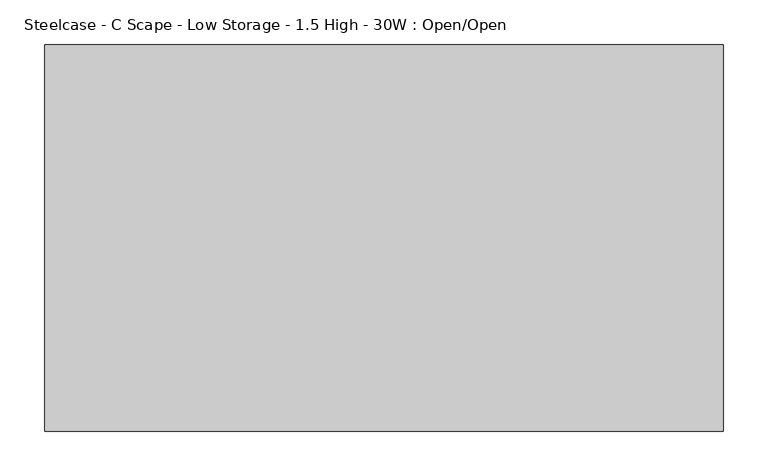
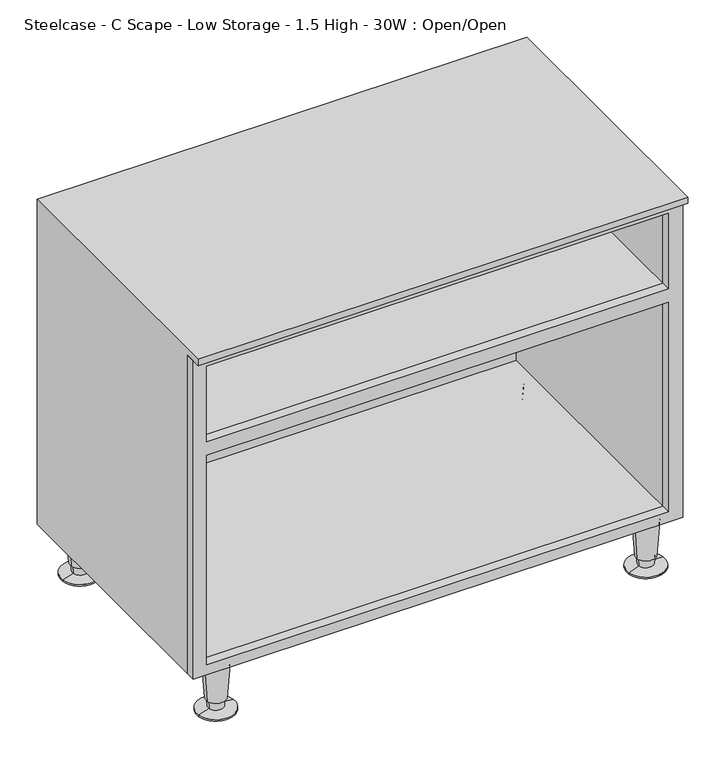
"""IFC4 building model written with IfcOpenShell, lengths in millimetres: furniture geometry, Steelcase - C Scape - Low Storage - 1.5 High - 30W : Open/Open."""

from ifc_helpers import new_model, si_unit, frame, origin, place, context, project, spatial, polyline, circle_curve, outline, extrude, faceted_brep, source, transform, mapped, element, save
from ifc_brep_helpers import plane_surface, cylinder_surface, revolved_surface, advanced_brep


def steelcase_c_scape_low_storage_1_5_high_30w_open_open_7402bb62(model_context):
    return source(origin(), model_context, "Body", "SolidModel", [
        extrude(outline(polyline([(599.4499291, 0.0), (76.2, 0.0), (76.2, 760.73), (599.4499291, 760.73), (599.4499291, 320.0585382), (599.4499291, 0.0)]), holes=[polyline([(458.7875121, 21.3382324), (582.9399291, 21.3382324), (582.9399291, 738.7617285), (458.7875121, 738.7617285), (458.7875121, 21.3382324)]), polyline([(436.841904, 21.3256814), (436.841904, 738.7617285), (92.7100024, 738.7617285), (92.7100024, 21.3256814), (436.841904, 21.3256814)])]), frame((0.0, -419.3540543, 0.0), z_axis=(0.0, 1.0, 0.0), x_axis=(0.0, 0.0, 1.0)), (0.0, 0.0, 1.0), 14.9860039),
        advanced_brep(
        [(65.5422821, -397.1702762, 76.2), (27.8805432, -402.9325174, 76.2), (46.7114126, -400.0513968, 76.2), (61.5919341, -397.774679, 19.05), (31.8308912, -402.3281146, 19.05), (59.1623471, -398.1464055, 19.05), (34.2604781, -401.9563882, 19.05), (58.4735776, -398.2517871, 5.7545598), (34.9492476, -401.8510065, 5.7545598), (75.8224611, -395.5974102, 2.5119506), (17.6003641, -404.5053834, 2.5119506), (75.8224611, -395.5974102, 0.0), (17.6003641, -404.5053834, 0.0), (46.7114126, -400.0513968, 0.0)],
        [
            (0, 1, circle_curve(frame((46.7114126, -400.0513968, 76.2), z_axis=(0.0, 0.0, 1.0), x_axis=(0.0, -1.0, 0.0)), 19.05)),
            (1, 2),
            (2, 0),
            (1, 0, circle_curve(frame((46.7114126, -400.0513968, 76.2), z_axis=(0.0, 0.0, 1.0), x_axis=(0.0, -1.0, 0.0)), 19.05)),
            (3, 4, circle_curve(frame((46.7114126, -400.0513968, 19.05), z_axis=(0.0, 0.0, 1.0), x_axis=(0.0, -1.0, 0.0)), 15.0536827)),
            (4, 1),
            (0, 3),
            (4, 3, circle_curve(frame((46.7114126, -400.0513968, 19.05), z_axis=(0.0, 0.0, 1.0), x_axis=(0.0, -1.0, 0.0)), 15.0536827)),
            (5, 6, circle_curve(frame((46.7114126, -400.0513968, 19.05), z_axis=(0.0, 0.0, 1.0), x_axis=(0.0, -1.0, 0.0)), 12.5958232)),
            (6, 4),
            (3, 5),
            (6, 5, circle_curve(frame((46.7114126, -400.0513968, 19.05), z_axis=(0.0, 0.0, 1.0), x_axis=(0.0, -1.0, 0.0)), 12.5958232)),
            (7, 8, circle_curve(frame((46.7114126, -400.0513968, 5.7545598), z_axis=(0.0, 0.0, 1.0), x_axis=(0.0, -1.0, 0.0)), 11.8990387)),
            (8, 6),
            (5, 7),
            (8, 7, circle_curve(frame((46.7114126, -400.0513968, 5.7545598), z_axis=(0.0, 0.0, 1.0), x_axis=(0.0, -1.0, 0.0)), 11.8990387)),
            (9, 10, circle_curve(frame((46.7114126, -400.0513968, 2.5119506), z_axis=(0.0, 0.0, 1.0), x_axis=(0.0, -1.0, 0.0)), 29.4498071)),
            (10, 8),
            (7, 9),
            (10, 9, circle_curve(frame((46.7114126, -400.0513968, 2.5119506), z_axis=(0.0, 0.0, 1.0), x_axis=(0.0, -1.0, 0.0)), 29.4498071)),
            (11, 12, circle_curve(frame((46.7114126, -400.0513968, 0.0), z_axis=(0.0, 0.0, 1.0), x_axis=(0.0, -1.0, 0.0)), 29.4498071)),
            (12, 10),
            (9, 11),
            (12, 11, circle_curve(frame((46.7114126, -400.0513968, 0.0), z_axis=(0.0, 0.0, 1.0), x_axis=(0.0, -1.0, 0.0)), 29.4498071)),
            (13, 12),
            (11, 13),
        ],
        [
            plane_surface(frame((46.7114126, -400.0513968, 76.2), z_axis=(0.0, 0.0, 1.0), x_axis=(0.0, -1.0, 0.0))),
            revolved_surface(polyline([(46.7114126, -419.1013968, 76.2), (46.7114126, -415.1050795, 19.05)]), (46.7114126, -400.0513968, 25.4), (0.0, 0.0, -1.0)),
            plane_surface(frame((46.7114126, -400.0513968, 19.05), z_axis=(0.0, 0.0, -1.0), x_axis=(0.0, -1.0, 0.0))),
            revolved_surface(polyline([(46.7114126, -412.64722, 19.05), (46.7114126, -411.9504355, 5.7545598)]), (46.7114126, -400.0513968, 25.4), (0.0, 0.0, -1.0)),
            revolved_surface(polyline([(46.7114126, -411.9504355, 5.7545598), (46.7114126, -429.5012039, 2.5119506)]), (46.7114126, -400.0513968, 25.4), (0.0, 0.0, -1.0)),
            cylinder_surface(frame((46.7114126, -400.0513968, 25.4), z_axis=(0.0, 0.0, -1.0), x_axis=(0.0, -1.0, 0.0)), 29.4498071),
            plane_surface(frame((46.7114126, -400.0513968, 0.0), z_axis=(0.0, 0.0, -1.0), x_axis=(0.0, -1.0, 0.0))),
        ],
        [
            (0, [[1, 2, 3]]),
            (0, [[4, -3, -2]]),
            (1, [[5, 6, -1, 7]]),
            (1, [[8, -7, -4, -6]]),
            (2, [[9, 10, -5, 11]]),
            (2, [[12, -11, -8, -10]]),
            (3, [[13, 14, -9, 15]]),
            (3, [[16, -15, -12, -14]]),
            (4, [[17, 18, -13, 19]]),
            (4, [[20, -19, -16, -18]]),
            (5, [[21, 22, -17, 23]]),
            (5, [[24, -23, -20, -22]]),
            (6, [[25, -21, 26]]),
            (6, [[-26, -24, -25]]),
        ],
    ),
        advanced_brep(
        [(733.4598695, -397.1702762, 76.2), (695.7981305, -402.9325174, 76.2), (714.629, -400.0513968, 76.2), (729.5095214, -397.774679, 19.05), (699.7484786, -402.3281146, 19.05), (727.0799345, -398.1464055, 19.05), (702.1780655, -401.9563882, 19.05), (726.391165, -398.2517871, 5.7545598), (702.866835, -401.8510065, 5.7545598), (743.7400485, -395.5974102, 2.5119506), (685.5179515, -404.5053834, 2.5119506), (743.7400485, -395.5974102, 0.0), (685.5179515, -404.5053834, 0.0), (714.629, -400.0513968, 0.0)],
        [
            (0, 1, circle_curve(frame((714.629, -400.0513968, 76.2), z_axis=(0.0, 0.0, 1.0), x_axis=(0.0, -1.0, 0.0)), 19.05)),
            (1, 2),
            (2, 0),
            (1, 0, circle_curve(frame((714.629, -400.0513968, 76.2), z_axis=(0.0, 0.0, 1.0), x_axis=(0.0, -1.0, 0.0)), 19.05)),
            (3, 4, circle_curve(frame((714.629, -400.0513968, 19.05), z_axis=(0.0, 0.0, 1.0), x_axis=(0.0, -1.0, 0.0)), 15.0536827)),
            (4, 1),
            (0, 3),
            (4, 3, circle_curve(frame((714.629, -400.0513968, 19.05), z_axis=(0.0, 0.0, 1.0), x_axis=(0.0, -1.0, 0.0)), 15.0536827)),
            (5, 6, circle_curve(frame((714.629, -400.0513968, 19.05), z_axis=(0.0, 0.0, 1.0), x_axis=(0.0, -1.0, 0.0)), 12.5958232)),
            (6, 4),
            (3, 5),
            (6, 5, circle_curve(frame((714.629, -400.0513968, 19.05), z_axis=(0.0, 0.0, 1.0), x_axis=(0.0, -1.0, 0.0)), 12.5958232)),
            (7, 8, circle_curve(frame((714.629, -400.0513968, 5.7545598), z_axis=(0.0, 0.0, 1.0), x_axis=(0.0, -1.0, 0.0)), 11.8990387)),
            (8, 6),
            (5, 7),
            (8, 7, circle_curve(frame((714.629, -400.0513968, 5.7545598), z_axis=(0.0, 0.0, 1.0), x_axis=(0.0, -1.0, 0.0)), 11.8990387)),
            (9, 10, circle_curve(frame((714.629, -400.0513968, 2.5119506), z_axis=(0.0, 0.0, 1.0), x_axis=(0.0, -1.0, 0.0)), 29.4498071)),
            (10, 8),
            (7, 9),
            (10, 9, circle_curve(frame((714.629, -400.0513968, 2.5119506), z_axis=(0.0, 0.0, 1.0), x_axis=(0.0, -1.0, 0.0)), 29.4498071)),
            (11, 12, circle_curve(frame((714.629, -400.0513968, 0.0), z_axis=(0.0, 0.0, 1.0), x_axis=(0.0, -1.0, 0.0)), 29.4498071)),
            (12, 10),
            (9, 11),
            (12, 11, circle_curve(frame((714.629, -400.0513968, 0.0), z_axis=(0.0, 0.0, 1.0), x_axis=(0.0, -1.0, 0.0)), 29.4498071)),
            (13, 12),
            (11, 13),
        ],
        [
            plane_surface(frame((714.629, -400.0513968, 76.2), z_axis=(0.0, 0.0, 1.0), x_axis=(0.0, -1.0, 0.0))),
            revolved_surface(polyline([(714.629, -419.1013968, 76.2), (714.629, -415.1050795, 19.05)]), (714.629, -400.0513968, 25.4), (0.0, 0.0, -1.0)),
            plane_surface(frame((714.629, -400.0513968, 19.05), z_axis=(0.0, 0.0, -1.0), x_axis=(0.0, -1.0, 0.0))),
            revolved_surface(polyline([(714.629, -412.64722, 19.05), (714.629, -411.9504355, 5.7545598)]), (714.629, -400.0513968, 25.4), (0.0, 0.0, -1.0)),
            revolved_surface(polyline([(714.629, -411.9504355, 5.7545598), (714.629, -429.5012039, 2.5119506)]), (714.629, -400.0513968, 25.4), (0.0, 0.0, -1.0)),
            cylinder_surface(frame((714.629, -400.0513968, 25.4), z_axis=(0.0, 0.0, -1.0), x_axis=(0.0, -1.0, 0.0)), 29.4498071),
            plane_surface(frame((714.629, -400.0513968, 0.0), z_axis=(0.0, 0.0, -1.0), x_axis=(0.0, -1.0, 0.0))),
        ],
        [
            (0, [[1, 2, 3]]),
            (0, [[4, -3, -2]]),
            (1, [[5, 6, -1, 7]]),
            (1, [[8, -7, -4, -6]]),
            (2, [[9, 10, -5, 11]]),
            (2, [[12, -11, -8, -10]]),
            (3, [[13, 14, -9, 15]]),
            (3, [[16, -15, -12, -14]]),
            (4, [[17, 18, -13, 19]]),
            (4, [[20, -19, -16, -18]]),
            (5, [[21, 22, -17, 23]]),
            (5, [[24, -23, -20, -22]]),
            (6, [[25, -21, 26]]),
            (6, [[-26, -24, -25]]),
        ],
    ),
        advanced_brep(
        [(733.4598695, -31.5218435, 76.2), (695.7981305, -37.2840847, 76.2), (714.629, -34.4029641, 76.2), (729.5095214, -32.1262463, 19.05), (699.7484786, -36.6796819, 19.05), (727.0799345, -32.4979728, 19.05), (702.1780655, -36.3079555, 19.05), (726.391165, -32.6033544, 5.7545598), (702.866835, -36.2025738, 5.7545598), (743.7400485, -29.9489775, 2.5119506), (685.5179515, -38.8569507, 2.5119506), (743.7400485, -29.9489775, 0.0), (685.5179515, -38.8569507, 0.0), (714.629, -34.4029641, 0.0)],
        [
            (0, 1, circle_curve(frame((714.629, -34.4029641, 76.2), z_axis=(0.0, 0.0, 1.0), x_axis=(0.0, -1.0, 0.0)), 19.05)),
            (1, 2),
            (2, 0),
            (1, 0, circle_curve(frame((714.629, -34.4029641, 76.2), z_axis=(0.0, 0.0, 1.0), x_axis=(0.0, -1.0, 0.0)), 19.05)),
            (3, 4, circle_curve(frame((714.629, -34.4029641, 19.05), z_axis=(0.0, 0.0, 1.0), x_axis=(0.0, -1.0, 0.0)), 15.0536827)),
            (4, 1),
            (0, 3),
            (4, 3, circle_curve(frame((714.629, -34.4029641, 19.05), z_axis=(0.0, 0.0, 1.0), x_axis=(0.0, -1.0, 0.0)), 15.0536827)),
            (5, 6, circle_curve(frame((714.629, -34.4029641, 19.05), z_axis=(0.0, 0.0, 1.0), x_axis=(0.0, -1.0, 0.0)), 12.5958232)),
            (6, 4),
            (3, 5),
            (6, 5, circle_curve(frame((714.629, -34.4029641, 19.05), z_axis=(0.0, 0.0, 1.0), x_axis=(0.0, -1.0, 0.0)), 12.5958232)),
            (7, 8, circle_curve(frame((714.629, -34.4029641, 5.7545598), z_axis=(0.0, 0.0, 1.0), x_axis=(0.0, -1.0, 0.0)), 11.8990387)),
            (8, 6),
            (5, 7),
            (8, 7, circle_curve(frame((714.629, -34.4029641, 5.7545598), z_axis=(0.0, 0.0, 1.0), x_axis=(0.0, -1.0, 0.0)), 11.8990387)),
            (9, 10, circle_curve(frame((714.629, -34.4029641, 2.5119506), z_axis=(0.0, 0.0, 1.0), x_axis=(0.0, -1.0, 0.0)), 29.4498071)),
            (10, 8),
            (7, 9),
            (10, 9, circle_curve(frame((714.629, -34.4029641, 2.5119506), z_axis=(0.0, 0.0, 1.0), x_axis=(0.0, -1.0, 0.0)), 29.4498071)),
            (11, 12, circle_curve(frame((714.629, -34.4029641, 0.0), z_axis=(0.0, 0.0, 1.0), x_axis=(0.0, -1.0, 0.0)), 29.4498071)),
            (12, 10),
            (9, 11),
            (12, 11, circle_curve(frame((714.629, -34.4029641, 0.0), z_axis=(0.0, 0.0, 1.0), x_axis=(0.0, -1.0, 0.0)), 29.4498071)),
            (13, 12),
            (11, 13),
        ],
        [
            plane_surface(frame((714.629, -34.4029641, 76.2), z_axis=(0.0, 0.0, 1.0), x_axis=(0.0, -1.0, 0.0))),
            revolved_surface(polyline([(714.629, -53.4529641, 76.2), (714.629, -49.4566468, 19.05)]), (714.629, -34.4029641, 25.4), (0.0, 0.0, -1.0)),
            plane_surface(frame((714.629, -34.4029641, 19.05), z_axis=(0.0, 0.0, -1.0), x_axis=(0.0, -1.0, 0.0))),
            revolved_surface(polyline([(714.629, -46.9987873, 19.05), (714.629, -46.3020028, 5.7545598)]), (714.629, -34.4029641, 25.4), (0.0, 0.0, -1.0)),
            revolved_surface(polyline([(714.629, -46.3020028, 5.7545598), (714.629, -63.8527712, 2.5119506)]), (714.629, -34.4029641, 25.4), (0.0, 0.0, -1.0)),
            cylinder_surface(frame((714.629, -34.4029641, 25.4), z_axis=(0.0, 0.0, -1.0), x_axis=(0.0, -1.0, 0.0)), 29.4498071),
            plane_surface(frame((714.629, -34.4029641, 0.0), z_axis=(0.0, 0.0, -1.0), x_axis=(0.0, -1.0, 0.0))),
        ],
        [
            (0, [[1, 2, 3]]),
            (0, [[4, -3, -2]]),
            (1, [[5, 6, -1, 7]]),
            (1, [[8, -7, -4, -6]]),
            (2, [[9, 10, -5, 11]]),
            (2, [[12, -11, -8, -10]]),
            (3, [[13, 14, -9, 15]]),
            (3, [[16, -15, -12, -14]]),
            (4, [[17, 18, -13, 19]]),
            (4, [[20, -19, -16, -18]]),
            (5, [[21, 22, -17, 23]]),
            (5, [[24, -23, -20, -22]]),
            (6, [[25, -21, 26]]),
            (6, [[-26, -24, -25]]),
        ],
    ),
        advanced_brep(
        [(65.5422821, -31.5218435, 76.2), (27.8805432, -37.2840847, 76.2), (46.7114126, -34.4029641, 76.2), (61.5919341, -32.1262463, 19.05), (31.8308912, -36.6796819, 19.05), (59.1623471, -32.4979728, 19.05), (34.2604781, -36.3079555, 19.05), (58.4735776, -32.6033544, 5.7545598), (34.9492476, -36.2025738, 5.7545598), (75.8224611, -29.9489775, 2.5119506), (17.6003641, -38.8569507, 2.5119506), (75.8224611, -29.9489775, 0.0), (17.6003641, -38.8569507, 0.0), (46.7114126, -34.4029641, 0.0)],
        [
            (0, 1, circle_curve(frame((46.7114126, -34.4029641, 76.2), z_axis=(0.0, 0.0, 1.0), x_axis=(0.0, -1.0, 0.0)), 19.05)),
            (1, 2),
            (2, 0),
            (1, 0, circle_curve(frame((46.7114126, -34.4029641, 76.2), z_axis=(0.0, 0.0, 1.0), x_axis=(0.0, -1.0, 0.0)), 19.05)),
            (3, 4, circle_curve(frame((46.7114126, -34.4029641, 19.05), z_axis=(0.0, 0.0, 1.0), x_axis=(0.0, -1.0, 0.0)), 15.0536827)),
            (4, 1),
            (0, 3),
            (4, 3, circle_curve(frame((46.7114126, -34.4029641, 19.05), z_axis=(0.0, 0.0, 1.0), x_axis=(0.0, -1.0, 0.0)), 15.0536827)),
            (5, 6, circle_curve(frame((46.7114126, -34.4029641, 19.05), z_axis=(0.0, 0.0, 1.0), x_axis=(0.0, -1.0, 0.0)), 12.5958232)),
            (6, 4),
            (3, 5),
            (6, 5, circle_curve(frame((46.7114126, -34.4029641, 19.05), z_axis=(0.0, 0.0, 1.0), x_axis=(0.0, -1.0, 0.0)), 12.5958232)),
            (7, 8, circle_curve(frame((46.7114126, -34.4029641, 5.7545598), z_axis=(0.0, 0.0, 1.0), x_axis=(0.0, -1.0, 0.0)), 11.8990387)),
            (8, 6),
            (5, 7),
            (8, 7, circle_curve(frame((46.7114126, -34.4029641, 5.7545598), z_axis=(0.0, 0.0, 1.0), x_axis=(0.0, -1.0, 0.0)), 11.8990387)),
            (9, 10, circle_curve(frame((46.7114126, -34.4029641, 2.5119506), z_axis=(0.0, 0.0, 1.0), x_axis=(0.0, -1.0, 0.0)), 29.4498071)),
            (10, 8),
            (7, 9),
            (10, 9, circle_curve(frame((46.7114126, -34.4029641, 2.5119506), z_axis=(0.0, 0.0, 1.0), x_axis=(0.0, -1.0, 0.0)), 29.4498071)),
            (11, 12, circle_curve(frame((46.7114126, -34.4029641, 0.0), z_axis=(0.0, 0.0, 1.0), x_axis=(0.0, -1.0, 0.0)), 29.4498071)),
            (12, 10),
            (9, 11),
            (12, 11, circle_curve(frame((46.7114126, -34.4029641, 0.0), z_axis=(0.0, 0.0, 1.0), x_axis=(0.0, -1.0, 0.0)), 29.4498071)),
            (13, 12),
            (11, 13),
        ],
        [
            plane_surface(frame((46.7114126, -34.4029641, 76.2), z_axis=(0.0, 0.0, 1.0), x_axis=(0.0, -1.0, 0.0))),
            revolved_surface(polyline([(46.7114126, -53.4529641, 76.2), (46.7114126, -49.4566468, 19.05)]), (46.7114126, -34.4029641, 25.4), (0.0, 0.0, -1.0)),
            plane_surface(frame((46.7114126, -34.4029641, 19.05), z_axis=(0.0, 0.0, -1.0), x_axis=(0.0, -1.0, 0.0))),
            revolved_surface(polyline([(46.7114126, -46.9987873, 19.05), (46.7114126, -46.3020028, 5.7545598)]), (46.7114126, -34.4029641, 25.4), (0.0, 0.0, -1.0)),
            revolved_surface(polyline([(46.7114126, -46.3020028, 5.7545598), (46.7114126, -63.8527712, 2.5119506)]), (46.7114126, -34.4029641, 25.4), (0.0, 0.0, -1.0)),
            cylinder_surface(frame((46.7114126, -34.4029641, 25.4), z_axis=(0.0, 0.0, -1.0), x_axis=(0.0, -1.0, 0.0)), 29.4498071),
            plane_surface(frame((46.7114126, -34.4029641, 0.0), z_axis=(0.0, 0.0, -1.0), x_axis=(0.0, -1.0, 0.0))),
        ],
        [
            (0, [[1, 2, 3]]),
            (0, [[4, -3, -2]]),
            (1, [[5, 6, -1, 7]]),
            (1, [[8, -7, -4, -6]]),
            (2, [[9, 10, -5, 11]]),
            (2, [[12, -11, -8, -10]]),
            (3, [[13, 14, -9, 15]]),
            (3, [[16, -15, -12, -14]]),
            (4, [[17, 18, -13, 19]]),
            (4, [[20, -19, -16, -18]]),
            (5, [[21, 22, -17, 23]]),
            (5, [[24, -23, -20, -22]]),
            (6, [[25, -21, 26]]),
            (6, [[-26, -24, -25]]),
        ],
    ),
        faceted_brep([(0.0, 0.0, 609.6), (760.73, 0.0, 609.6), (760.73, 0.0, 76.2), (0.0, 0.0, 76.2), (0.0, -433.07, 609.6), (0.0, -404.3680504, 76.2), (0.0, -404.3680504, 599.4499291), (0.0, -433.07, 599.4499291), (21.3382324, -404.3680504, 599.4499291), (760.73, -404.3680504, 76.2), (760.73, -404.3680504, 599.4499291), (738.7617285, -404.3680504, 599.4499291), (738.7617285, -404.3680504, 458.7875121), (21.3382324, -404.3680504, 458.7875121), (738.7617285, -404.3680504, 450.8499879), (738.7617285, -404.3680504, 92.7100024), (21.3382324, -404.3680504, 92.7100024), (21.3382324, -404.3680504, 450.8499879), (21.3382324, -9.525, 599.4499291), (21.3382324, -9.525, 458.7875121), (21.3382324, -9.525, 92.7100024), (21.3382324, -9.525, 450.8499879), (738.7617285, -9.525, 599.4499291), (738.7617285, -9.525, 458.7875121), (738.7617285, -9.525, 92.7100024), (738.7617285, -9.525, 450.8499879), (760.73, -433.07, 609.6), (760.73, -433.07, 599.4499291)], [[[0, 1, 2, 3]], [[4, 0, 3, 5, 6, 7]], [[8, 6, 5, 9, 10, 11, 12, 13], [14, 15, 16, 17]], [[18, 8, 13, 19]], [[17, 16, 20, 21]], [[22, 18, 19, 23]], [[21, 20, 24, 25]], [[11, 22, 23, 12]], [[25, 24, 15, 14]], [[2, 1, 26, 27, 10, 9]], [[1, 0, 4, 26]], [[27, 7, 6, 8, 18, 22, 11, 10]], [[26, 4, 7, 27]], [[13, 12, 23, 19]], [[14, 17, 21, 25]], [[16, 15, 24, 20]], [[2, 9, 5, 3]]]),
    ])


if __name__ == "__main__":
    model = new_model("IFC4")
    model_context = context("Model", 3, world=origin())
    ifc_project = project(units=[si_unit("LENGTHUNIT", "METRE", prefix="MILLI")], contexts=[model_context])
    site = spatial("IfcSite", under=ifc_project)
    building = spatial("IfcBuilding", under=site)
    placement = place(None, origin())
    steelcase_c_scape_low_storage_1_5_high_30w_open_open_shape = steelcase_c_scape_low_storage_1_5_high_30w_open_open_7402bb62(model_context)
    element("IfcFurniture", 1, ObjectType="Steelcase - C Scape - Low Storage - 1.5 High - 30W : Open/Open", at=placement, inside=building, context=model_context, shape_type="MappedRepresentation", body=[
        mapped(steelcase_c_scape_low_storage_1_5_high_30w_open_open_shape, transform((0.0, 0.0, 0.0), x_axis=(1.0, 0.0, 0.0), y_axis=(0.0, 1.0, 0.0), z_axis=(0.0, 0.0, 1.0))),
    ])
    save(model, "model.ifc")
